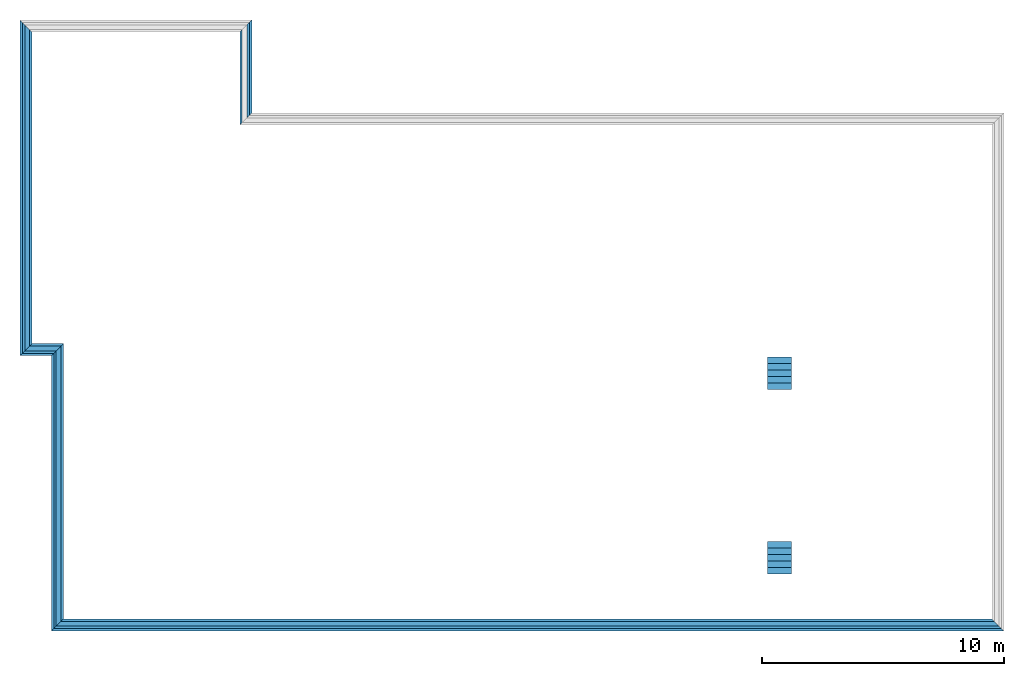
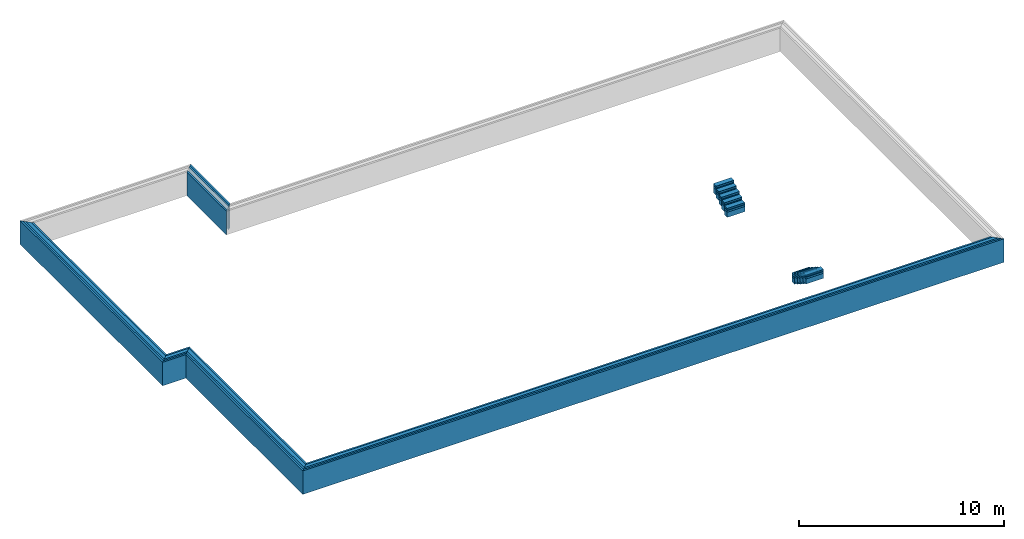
# One storey, part 1 of 2: 69 building element parts, 15 elements without a shape of their own.
"""IFC2X3 building model written with IfcOpenShell, lengths in millimetres."""

from ifc_helpers import new_model, entity, si_unit, converted_unit, derived_unit, money_unit, direction, frame, origin_with_axes, place, context, subcontext, project, spatial, polyline, outline, extrude, material, type_object, element, aggregate, save


model = new_model("IFC2X3")

# Units and contexts
model_context = context("Model", 3, precision=0.01, world=origin_with_axes(), true_north=direction((0.0, 1.0)))
body_context = subcontext(model_context, "Body", "Model", "MODEL_VIEW")
ifc_project = project(units=[si_unit("LENGTHUNIT", "METRE", prefix="MILLI"), si_unit("AREAUNIT", "SQUARE_METRE"), si_unit("VOLUMEUNIT", "CUBIC_METRE"), converted_unit("PLANEANGLEUNIT", "DEGREE", entity("IfcPlaneAngleMeasure", 0.0174532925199), si_unit("PLANEANGLEUNIT", "RADIAN"), dimensions=[0, 0, 0, 0, 0, 0, 0]), si_unit("SOLIDANGLEUNIT", "STERADIAN"), money_unit("EUR"), converted_unit("TIMEUNIT", "Year", entity("IfcTimeMeasure", 31556926.0), si_unit("TIMEUNIT", "SECOND"), dimensions=[0, 0, 1, 0, 0, 0, 0]), si_unit("MASSUNIT", "GRAM", prefix="KILO"), si_unit("THERMODYNAMICTEMPERATUREUNIT", "DEGREE_CELSIUS"), si_unit("LUMINOUSINTENSITYUNIT", "LUMEN"), si_unit("ENERGYUNIT", "JOULE", prefix="MEGA"), derived_unit("THERMALCONDUCTANCEUNIT", [(si_unit("POWERUNIT", "WATT"), 1), (si_unit("LENGTHUNIT", "METRE"), -1), (si_unit("THERMODYNAMICTEMPERATUREUNIT", "KELVIN"), -1)]), derived_unit("SPECIFICHEATCAPACITYUNIT", [(si_unit("ENERGYUNIT", "JOULE"), 1), (si_unit("MASSUNIT", "GRAM", prefix="KILO"), -1), (si_unit("THERMODYNAMICTEMPERATUREUNIT", "KELVIN"), -1)]), derived_unit("MASSDENSITYUNIT", [(si_unit("MASSUNIT", "GRAM", prefix="KILO"), 1), (si_unit("VOLUMEUNIT", "CUBIC_METRE"), -1)])], contexts=[model_context])

# Site, building, storey
site_placement = place(None, origin_with_axes())
site = spatial("IfcSite", under=ifc_project, at=site_placement, Name="KIRDE 14, ELVA", CompositionType="ELEMENT")
building_placement = place(site_placement, origin_with_axes())
building = spatial("IfcBuilding", under=site, at=building_placement, Name="PPA ja Päästeameti ühishoone", CompositionType="ELEMENT")
storey_placement = place(building_placement, frame((0.0, 0.0, -1700.0), z_axis=(0.0, 0.0, 1.0), x_axis=(1.0, 0.0, 0.0)))
storey = spatial("IfcBuildingStorey", under=building, at=storey_placement, Name="Vundament", CompositionType="ELEMENT", Elevation=-1700.0)

# Slab, building element parts
slab_type = type_object("IfcSlabType", Name="P-01 PORAND PINNASEL 535", PredefinedType="BASESLAB")
slab_1_placement = place(storey_placement, frame((30600.172355, 3349.999896, 866.666666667), z_axis=(0.0, 0.0, 1.0), x_axis=(1.0, 0.0, 0.0)))
slab_1 = element("IfcSlab", 1, at=slab_1_placement, inside=storey, type_object=slab_type, Name="PP-02", PredefinedType="BASESLAB")
ifc_material_1 = material(Name="Vahtpolüstüreen (4)")
building_element_part_1_placement = place(slab_1_placement, origin_with_axes())
building_element_part_1 = element("IfcBuildingElementPart", 2, at=building_element_part_1_placement, material=ifc_material_1, Name="Vahtpolüstüreen (4)", context=body_context, shape_type="SweptSolid", body=[
    extrude(outline(polyline([(0.0, 0.0), (0.0, -270.0), (1000.0, -270.0), (1000.0, 0.0), (0.0, 0.0)])), frame((0.0, 0.0, -535.0), z_axis=(0.0, 0.0, 1.0), x_axis=(1.0, 0.0, 0.0)), (0.0, 0.0, 1.0), 300.0),
])
ifc_material_2 = material(Name="Concrete - Cast-in-Place Concrete - C12/15")
building_element_part_2_placement = place(slab_1_placement, origin_with_axes())
building_element_part_2 = element("IfcBuildingElementPart", 3, at=building_element_part_2_placement, material=ifc_material_2, Name="Concrete - Cast-in-Place Concrete - C12/15", context=body_context, shape_type="SweptSolid", body=[
    extrude(outline(polyline([(0.0, 0.0), (0.0, -270.0), (1000.0, -270.0), (1000.0, 0.0), (0.0, 0.0)])), frame((0.0, 0.0, -235.0), z_axis=(0.0, 0.0, 1.0), x_axis=(1.0, 0.0, 0.0)), (0.0, 0.0, 1.0), 100.0),
])
ifc_material_3 = material(Name="Mineraalvill")
building_element_part_3_placement = place(slab_1_placement, origin_with_axes())
building_element_part_3 = element("IfcBuildingElementPart", 4, at=building_element_part_3_placement, material=ifc_material_3, Name="Mineraalvill", context=body_context, shape_type="SweptSolid", body=[
    extrude(outline(polyline([(0.0, 0.0), (0.0, -270.0), (1000.0, -270.0), (1000.0, 0.0), (0.0, 0.0)])), frame((0.0, 0.0, -135.0), z_axis=(0.0, 0.0, 1.0), x_axis=(1.0, 0.0, 0.0)), (0.0, 0.0, 1.0), 30.0),
])
ifc_material_4 = material(Name="Concrete, Cast In Situ")
building_element_part_4_placement = place(slab_1_placement, origin_with_axes())
building_element_part_4 = element("IfcBuildingElementPart", 5, at=building_element_part_4_placement, material=ifc_material_4, Name="Concrete, Cast In Situ", context=body_context, shape_type="SweptSolid", body=[
    extrude(outline(polyline([(0.0, 0.0), (0.0, -270.0), (1000.0, -270.0), (1000.0, 0.0), (0.0, 0.0)])), frame((0.0, 0.0, -105.0), z_axis=(0.0, 0.0, 1.0), x_axis=(1.0, 0.0, 0.0)), (0.0, 0.0, 1.0), 90.0),
])
ifc_material_5 = material(Name="Timber - Floor")
building_element_part_5_placement = place(slab_1_placement, origin_with_axes())
building_element_part_5 = element("IfcBuildingElementPart", 6, at=building_element_part_5_placement, material=ifc_material_5, Name="Timber - Floor", context=body_context, shape_type="SweptSolid", body=[
    extrude(outline(polyline([(0.0, 0.0), (0.0, -270.0), (1000.0, -270.0), (1000.0, 0.0), (0.0, 0.0)])), frame((0.0, 0.0, -15.0), z_axis=(0.0, 0.0, 1.0), x_axis=(1.0, 0.0, 0.0)), (0.0, 0.0, 1.0), 15.0),
])
aggregate(slab_1, [building_element_part_1, building_element_part_2, building_element_part_3, building_element_part_4, building_element_part_5])

slab_2_placement = place(storey_placement, frame((30600.172355, 9919.999896, 1033.33333333), z_axis=(0.0, 0.0, 1.0), x_axis=(1.0, 0.0, 0.0)))
slab_2 = element("IfcSlab", 7, at=slab_2_placement, inside=storey, type_object=slab_type, Name="PP-02", PredefinedType="BASESLAB")
building_element_part_6_placement = place(slab_2_placement, origin_with_axes())
building_element_part_6 = element("IfcBuildingElementPart", 8, at=building_element_part_6_placement, material=ifc_material_1, Name="Vahtpolüstüreen (4)", context=body_context, shape_type="SweptSolid", body=[
    extrude(outline(polyline([(0.0, 0.0), (1000.0, 0.0), (1000.0, 270.0), (0.0, 270.0), (0.0, 0.0)])), frame((0.0, 0.0, -535.0), z_axis=(0.0, 0.0, 1.0), x_axis=(1.0, 0.0, 0.0)), (0.0, 0.0, 1.0), 300.0),
])
building_element_part_7_placement = place(slab_2_placement, origin_with_axes())
building_element_part_7 = element("IfcBuildingElementPart", 9, at=building_element_part_7_placement, material=ifc_material_2, Name="Concrete - Cast-in-Place Concrete - C12/15", context=body_context, shape_type="SweptSolid", body=[
    extrude(outline(polyline([(0.0, 0.0), (1000.0, 0.0), (1000.0, 270.0), (0.0, 270.0), (0.0, 0.0)])), frame((0.0, 0.0, -235.0), z_axis=(0.0, 0.0, 1.0), x_axis=(1.0, 0.0, 0.0)), (0.0, 0.0, 1.0), 100.0),
])
building_element_part_8_placement = place(slab_2_placement, origin_with_axes())
building_element_part_8 = element("IfcBuildingElementPart", 10, at=building_element_part_8_placement, material=ifc_material_3, Name="Mineraalvill", context=body_context, shape_type="SweptSolid", body=[
    extrude(outline(polyline([(0.0, 0.0), (1000.0, 0.0), (1000.0, 270.0), (0.0, 270.0), (0.0, 0.0)])), frame((0.0, 0.0, -135.0), z_axis=(0.0, 0.0, 1.0), x_axis=(1.0, 0.0, 0.0)), (0.0, 0.0, 1.0), 30.0),
])
building_element_part_9_placement = place(slab_2_placement, origin_with_axes())
building_element_part_9 = element("IfcBuildingElementPart", 11, at=building_element_part_9_placement, material=ifc_material_4, Name="Concrete, Cast In Situ", context=body_context, shape_type="SweptSolid", body=[
    extrude(outline(polyline([(0.0, 0.0), (1000.0, 0.0), (1000.0, 270.0), (0.0, 270.0), (0.0, 0.0)])), frame((0.0, 0.0, -105.0), z_axis=(0.0, 0.0, 1.0), x_axis=(1.0, 0.0, 0.0)), (0.0, 0.0, 1.0), 90.0),
])
building_element_part_10_placement = place(slab_2_placement, origin_with_axes())
building_element_part_10 = element("IfcBuildingElementPart", 12, at=building_element_part_10_placement, material=ifc_material_5, Name="Timber - Floor", context=body_context, shape_type="SweptSolid", body=[
    extrude(outline(polyline([(0.0, 0.0), (1000.0, 0.0), (1000.0, 270.0), (0.0, 270.0), (0.0, 0.0)])), frame((0.0, 0.0, -15.0), z_axis=(0.0, 0.0, 1.0), x_axis=(1.0, 0.0, 0.0)), (0.0, 0.0, 1.0), 15.0),
])
aggregate(slab_2, [building_element_part_6, building_element_part_7, building_element_part_8, building_element_part_9, building_element_part_10])

# Wall, building element parts
wall_type = type_object("IfcWallType", Name="VS- SOKKEL 500", PredefinedType="NOTDEFINED")
wall_1_placement = place(storey_placement, frame((8750.00012098, 24449.8167313, 300.0), z_axis=(0.0, 0.0, 1.0), x_axis=(0.0, -1.0, 0.0)))
wall_1 = element("IfcWall", 13, at=wall_1_placement, inside=storey, type_object=wall_type, Name="VS-SOKKEL")
building_element_part_11_placement = place(wall_1_placement, origin_with_axes())
building_element_part_11 = element("IfcBuildingElementPart", 14, at=building_element_part_11_placement, material=ifc_material_1, Name="Vahtpolüstüreen (4)", context=body_context, shape_type="SweptSolid", body=[
    extrude(outline(polyline([(-400.0, 400.0), (3450.22510681, 400.0), (3350.22510681, 500.0), (-500.0, 500.0), (-400.0, 400.0)])), origin_with_axes(), (0.0, 0.0, 1.0), 1400.0),
])
building_element_part_12_placement = place(wall_1_placement, origin_with_axes())
building_element_part_12 = element("IfcBuildingElementPart", 15, at=building_element_part_12_placement, material=ifc_material_1, Name="Vahtpolüstüreen (4)", context=body_context, shape_type="SweptSolid", body=[
    extrude(outline(polyline([(-300.0, 300.0), (3550.22510681, 300.0), (3450.22510681, 400.0), (-400.0, 400.0), (-300.0, 300.0)])), origin_with_axes(), (0.0, 0.0, 1.0), 1400.0),
])
building_element_part_13_placement = place(wall_1_placement, origin_with_axes())
building_element_part_13 = element("IfcBuildingElementPart", 16, at=building_element_part_13_placement, material=ifc_material_1, Name="Vahtpolüstüreen (4)", context=body_context, shape_type="SweptSolid", body=[
    extrude(outline(polyline([(0.0, 0.0), (3850.22510681, 0.0), (3750.22510681, 100.0), (-100.0, 100.0), (0.0, 0.0)])), origin_with_axes(), (0.0, 0.0, 1.0), 1400.0),
])
aggregate(wall_1, [building_element_part_11, building_element_part_12, building_element_part_13])

wall_2_placement = place(storey_placement, frame((1450.00014324, 150.0, 300.0), z_axis=(0.0, 0.0, 1.0), x_axis=(0.0, 1.0, 0.0)))
wall_2 = element("IfcWall", 17, at=wall_2_placement, inside=storey, type_object=wall_type, Name="VS-SOKKEL")
building_element_part_14_placement = place(wall_2_placement, origin_with_axes())
building_element_part_14 = element("IfcBuildingElementPart", 18, at=building_element_part_14_placement, material=ifc_material_1, Name="Vahtpolüstüreen (4)", context=body_context, shape_type="SweptSolid", body=[
    extrude(outline(polyline([(-400.0, 400.0), (11000.396839, 400.0), (10900.396839, 500.0), (-500.0, 500.0), (-400.0, 400.0)])), origin_with_axes(), (0.0, 0.0, 1.0), 1400.0),
])
building_element_part_15_placement = place(wall_2_placement, origin_with_axes())
building_element_part_15 = element("IfcBuildingElementPart", 19, at=building_element_part_15_placement, material=ifc_material_1, Name="Vahtpolüstüreen (4)", context=body_context, shape_type="SweptSolid", body=[
    extrude(outline(polyline([(-300.0, 300.0), (11100.396839, 300.0), (11000.396839, 400.0), (-400.0, 400.0), (-300.0, 300.0)])), origin_with_axes(), (0.0, 0.0, 1.0), 1400.0),
])
building_element_part_16_placement = place(wall_2_placement, origin_with_axes())
building_element_part_16 = element("IfcBuildingElementPart", 20, at=building_element_part_16_placement, material=ifc_material_4, Name="Concrete, Cast In Situ", context=body_context, shape_type="SweptSolid", body=[
    extrude(outline(polyline([(-100.0, 100.0), (11300.396839, 100.0), (11100.396839, 300.0), (-300.0, 300.0), (-100.0, 100.0)])), origin_with_axes(), (0.0, 0.0, 1.0), 1400.0),
])
building_element_part_17_placement = place(wall_2_placement, origin_with_axes())
building_element_part_17 = element("IfcBuildingElementPart", 21, at=building_element_part_17_placement, material=ifc_material_1, Name="Vahtpolüstüreen (4)", context=body_context, shape_type="SweptSolid", body=[
    extrude(outline(polyline([(0.0, 0.0), (11400.396839, 0.0), (11300.396839, 100.0), (-100.0, 100.0), (0.0, 0.0)])), origin_with_axes(), (0.0, 0.0, 1.0), 1400.0),
])
aggregate(wall_2, [building_element_part_14, building_element_part_15, building_element_part_16, building_element_part_17])

wall_3_placement = place(storey_placement, frame((39894.7048801, 150.0, 300.0), z_axis=(0.0, 0.0, 1.0), x_axis=(-1.0, 0.0, 0.0)))
wall_3 = element("IfcWall", 22, at=wall_3_placement, inside=storey, type_object=wall_type, Name="VS-SOKKEL")
building_element_part_18_placement = place(wall_3_placement, origin_with_axes())
building_element_part_18 = element("IfcBuildingElementPart", 23, at=building_element_part_18_placement, material=ifc_material_1, Name="Vahtpolüstüreen (4)", context=body_context, shape_type="SweptSolid", body=[
    extrude(outline(polyline([(-400.0, 400.0), (38844.7047369, 400.0), (38944.7047369, 500.0), (-500.0, 500.0), (-400.0, 400.0)])), origin_with_axes(), (0.0, 0.0, 1.0), 1400.0),
])
building_element_part_19_placement = place(wall_3_placement, origin_with_axes())
building_element_part_19 = element("IfcBuildingElementPart", 24, at=building_element_part_19_placement, material=ifc_material_1, Name="Vahtpolüstüreen (4)", context=body_context, shape_type="SweptSolid", body=[
    extrude(outline(polyline([(-300.0, 300.0), (38744.7047369, 300.0), (38844.7047369, 400.0), (-400.0, 400.0), (-300.0, 300.0)])), origin_with_axes(), (0.0, 0.0, 1.0), 1400.0),
])
building_element_part_20_placement = place(wall_3_placement, origin_with_axes())
building_element_part_20 = element("IfcBuildingElementPart", 25, at=building_element_part_20_placement, material=ifc_material_4, Name="Concrete, Cast In Situ", context=body_context, shape_type="SweptSolid", body=[
    extrude(outline(polyline([(-100.0, 100.0), (38544.7047369, 100.0), (38744.7047369, 300.0), (-300.0, 300.0), (-100.0, 100.0)])), origin_with_axes(), (0.0, 0.0, 1.0), 1400.0),
])
building_element_part_21_placement = place(wall_3_placement, origin_with_axes())
building_element_part_21 = element("IfcBuildingElementPart", 26, at=building_element_part_21_placement, material=ifc_material_1, Name="Vahtpolüstüreen (4)", context=body_context, shape_type="SweptSolid", body=[
    extrude(outline(polyline([(0.0, 0.0), (38444.7047369, 0.0), (38544.7047369, 100.0), (-100.0, 100.0), (0.0, 0.0)])), origin_with_axes(), (0.0, 0.0, 1.0), 1400.0),
])
aggregate(wall_3, [building_element_part_18, building_element_part_19, building_element_part_20, building_element_part_21])

wall_4_placement = place(storey_placement, frame((150.0, 11550.396839, 300.0), z_axis=(0.0, 0.0, 1.0), x_axis=(0.0, 1.0, 0.0)))
wall_4 = element("IfcWall", 27, at=wall_4_placement, inside=storey, type_object=wall_type, Name="VS-SOKKEL")
building_element_part_22_placement = place(wall_4_placement, origin_with_axes())
building_element_part_22 = element("IfcBuildingElementPart", 28, at=building_element_part_22_placement, material=ifc_material_1, Name="Vahtpolüstüreen (4)", context=body_context, shape_type="SweptSolid", body=[
    extrude(outline(polyline([(-400.0, 400.0), (13299.4198923, 400.0), (13399.4198923, 500.0), (-500.0, 500.0), (-400.0, 400.0)])), origin_with_axes(), (0.0, 0.0, 1.0), 1400.0),
])
building_element_part_23_placement = place(wall_4_placement, origin_with_axes())
building_element_part_23 = element("IfcBuildingElementPart", 29, at=building_element_part_23_placement, material=ifc_material_1, Name="Vahtpolüstüreen (4)", context=body_context, shape_type="SweptSolid", body=[
    extrude(outline(polyline([(-300.0, 300.0), (13199.4198923, 300.0), (13299.4198923, 400.0), (-400.0, 400.0), (-300.0, 300.0)])), origin_with_axes(), (0.0, 0.0, 1.0), 1400.0),
])
building_element_part_24_placement = place(wall_4_placement, origin_with_axes())
building_element_part_24 = element("IfcBuildingElementPart", 30, at=building_element_part_24_placement, material=ifc_material_4, Name="Concrete, Cast In Situ", context=body_context, shape_type="SweptSolid", body=[
    extrude(outline(polyline([(-100.0, 100.0), (12999.4198923, 100.0), (13199.4198923, 300.0), (-300.0, 300.0), (-100.0, 100.0)])), origin_with_axes(), (0.0, 0.0, 1.0), 1400.0),
])
building_element_part_25_placement = place(wall_4_placement, origin_with_axes())
building_element_part_25 = element("IfcBuildingElementPart", 31, at=building_element_part_25_placement, material=ifc_material_1, Name="Vahtpolüstüreen (4)", context=body_context, shape_type="SweptSolid", body=[
    extrude(outline(polyline([(0.0, 0.0), (12899.4198923, 0.0), (12999.4198923, 100.0), (-100.0, 100.0), (0.0, 0.0)])), origin_with_axes(), (0.0, 0.0, 1.0), 1400.0),
])
aggregate(wall_4, [building_element_part_22, building_element_part_23, building_element_part_24, building_element_part_25])

wall_5_placement = place(storey_placement, frame((1450.00014324, 11550.396839, 300.0), z_axis=(0.0, 0.0, 1.0), x_axis=(-1.0, 0.0, 0.0)))
wall_5 = element("IfcWall", 32, at=wall_5_placement, inside=storey, type_object=wall_type, Name="VS-SOKKEL")
building_element_part_26_placement = place(wall_5_placement, origin_with_axes())
building_element_part_26 = element("IfcBuildingElementPart", 33, at=building_element_part_26_placement, material=ifc_material_1, Name="Vahtpolüstüreen (4)", context=body_context, shape_type="SweptSolid", body=[
    extrude(outline(polyline([(400.0, 400.0), (1700.00014324, 400.0), (1800.00014324, 500.0), (500.0, 500.0), (400.0, 400.0)])), origin_with_axes(), (0.0, 0.0, 1.0), 1400.0),
])
building_element_part_27_placement = place(wall_5_placement, origin_with_axes())
building_element_part_27 = element("IfcBuildingElementPart", 34, at=building_element_part_27_placement, material=ifc_material_1, Name="Vahtpolüstüreen (4)", context=body_context, shape_type="SweptSolid", body=[
    extrude(outline(polyline([(300.0, 300.0), (1600.00014324, 300.0), (1700.00014324, 400.0), (400.0, 400.0), (300.0, 300.0)])), origin_with_axes(), (0.0, 0.0, 1.0), 1400.0),
])
building_element_part_28_placement = place(wall_5_placement, origin_with_axes())
building_element_part_28 = element("IfcBuildingElementPart", 35, at=building_element_part_28_placement, material=ifc_material_4, Name="Concrete, Cast In Situ", context=body_context, shape_type="SweptSolid", body=[
    extrude(outline(polyline([(100.0, 100.0), (1400.00014324, 100.0), (1600.00014324, 300.0), (300.0, 300.0), (100.0, 100.0)])), origin_with_axes(), (0.0, 0.0, 1.0), 1400.0),
])
building_element_part_29_placement = place(wall_5_placement, origin_with_axes())
building_element_part_29 = element("IfcBuildingElementPart", 36, at=building_element_part_29_placement, material=ifc_material_1, Name="Vahtpolüstüreen (4)", context=body_context, shape_type="SweptSolid", body=[
    extrude(outline(polyline([(0.0, 0.0), (1300.00014324, 0.0), (1400.00014324, 100.0), (100.0, 100.0), (0.0, 0.0)])), origin_with_axes(), (0.0, 0.0, 1.0), 1400.0),
])
aggregate(wall_5, [building_element_part_26, building_element_part_27, building_element_part_28, building_element_part_29])

# Slab, building element parts
slab_3_placement = place(storey_placement, frame((30600.172355, 2809.999896, 1200.0), z_axis=(0.0, 0.0, 1.0), x_axis=(1.0, 0.0, 0.0)))
slab_3 = element("IfcSlab", 37, at=slab_3_placement, inside=storey, type_object=slab_type, Name="PP-02", PredefinedType="BASESLAB")
building_element_part_30_placement = place(slab_3_placement, origin_with_axes())
building_element_part_30 = element("IfcBuildingElementPart", 38, at=building_element_part_30_placement, material=ifc_material_1, Name="Vahtpolüstüreen (4)", context=body_context, shape_type="SweptSolid", body=[
    extrude(outline(polyline([(0.0, 0.0), (0.0, -270.0), (1000.0, -270.0), (1000.0, 0.0), (0.0, 0.0)])), frame((0.0, 0.0, -535.0), z_axis=(0.0, 0.0, 1.0), x_axis=(1.0, 0.0, 0.0)), (0.0, 0.0, 1.0), 300.0),
])
building_element_part_31_placement = place(slab_3_placement, origin_with_axes())
building_element_part_31 = element("IfcBuildingElementPart", 39, at=building_element_part_31_placement, material=ifc_material_2, Name="Concrete - Cast-in-Place Concrete - C12/15", context=body_context, shape_type="SweptSolid", body=[
    extrude(outline(polyline([(0.0, 0.0), (0.0, -270.0), (1000.0, -270.0), (1000.0, 0.0), (0.0, 0.0)])), frame((0.0, 0.0, -235.0), z_axis=(0.0, 0.0, 1.0), x_axis=(1.0, 0.0, 0.0)), (0.0, 0.0, 1.0), 100.0),
])
building_element_part_32_placement = place(slab_3_placement, origin_with_axes())
building_element_part_32 = element("IfcBuildingElementPart", 40, at=building_element_part_32_placement, material=ifc_material_3, Name="Mineraalvill", context=body_context, shape_type="SweptSolid", body=[
    extrude(outline(polyline([(0.0, 0.0), (0.0, -270.0), (1000.0, -270.0), (1000.0, 0.0), (0.0, 0.0)])), frame((0.0, 0.0, -135.0), z_axis=(0.0, 0.0, 1.0), x_axis=(1.0, 0.0, 0.0)), (0.0, 0.0, 1.0), 30.0),
])
building_element_part_33_placement = place(slab_3_placement, origin_with_axes())
building_element_part_33 = element("IfcBuildingElementPart", 41, at=building_element_part_33_placement, material=ifc_material_4, Name="Concrete, Cast In Situ", context=body_context, shape_type="SweptSolid", body=[
    extrude(outline(polyline([(0.0, 0.0), (0.0, -270.0), (1000.0, -270.0), (1000.0, 0.0), (0.0, 0.0)])), frame((0.0, 0.0, -105.0), z_axis=(0.0, 0.0, 1.0), x_axis=(1.0, 0.0, 0.0)), (0.0, 0.0, 1.0), 90.0),
])
building_element_part_34_placement = place(slab_3_placement, origin_with_axes())
building_element_part_34 = element("IfcBuildingElementPart", 42, at=building_element_part_34_placement, material=ifc_material_5, Name="Timber - Floor", context=body_context, shape_type="SweptSolid", body=[
    extrude(outline(polyline([(0.0, 0.0), (0.0, -270.0), (1000.0, -270.0), (1000.0, 0.0), (0.0, 0.0)])), frame((0.0, 0.0, -15.0), z_axis=(0.0, 0.0, 1.0), x_axis=(1.0, 0.0, 0.0)), (0.0, 0.0, 1.0), 15.0),
])
aggregate(slab_3, [building_element_part_30, building_element_part_31, building_element_part_32, building_element_part_33, building_element_part_34])

slab_4_placement = place(storey_placement, frame((30600.172355, 10459.999896, 1366.66666667), z_axis=(0.0, 0.0, 1.0), x_axis=(1.0, 0.0, 0.0)))
slab_4 = element("IfcSlab", 43, at=slab_4_placement, inside=storey, type_object=slab_type, Name="PP-02", PredefinedType="BASESLAB")
building_element_part_35_placement = place(slab_4_placement, origin_with_axes())
building_element_part_35 = element("IfcBuildingElementPart", 44, at=building_element_part_35_placement, material=ifc_material_1, Name="Vahtpolüstüreen (4)", context=body_context, shape_type="SweptSolid", body=[
    extrude(outline(polyline([(0.0, 0.0), (1000.0, 0.0), (1000.0, 270.0), (0.0, 270.0), (0.0, 0.0)])), frame((0.0, 0.0, -535.0), z_axis=(0.0, 0.0, 1.0), x_axis=(1.0, 0.0, 0.0)), (0.0, 0.0, 1.0), 300.0),
])
building_element_part_36_placement = place(slab_4_placement, origin_with_axes())
building_element_part_36 = element("IfcBuildingElementPart", 45, at=building_element_part_36_placement, material=ifc_material_2, Name="Concrete - Cast-in-Place Concrete - C12/15", context=body_context, shape_type="SweptSolid", body=[
    extrude(outline(polyline([(0.0, 0.0), (1000.0, 0.0), (1000.0, 270.0), (0.0, 270.0), (0.0, 0.0)])), frame((0.0, 0.0, -235.0), z_axis=(0.0, 0.0, 1.0), x_axis=(1.0, 0.0, 0.0)), (0.0, 0.0, 1.0), 100.0),
])
building_element_part_37_placement = place(slab_4_placement, origin_with_axes())
building_element_part_37 = element("IfcBuildingElementPart", 46, at=building_element_part_37_placement, material=ifc_material_3, Name="Mineraalvill", context=body_context, shape_type="SweptSolid", body=[
    extrude(outline(polyline([(0.0, 0.0), (1000.0, 0.0), (1000.0, 270.0), (0.0, 270.0), (0.0, 0.0)])), frame((0.0, 0.0, -135.0), z_axis=(0.0, 0.0, 1.0), x_axis=(1.0, 0.0, 0.0)), (0.0, 0.0, 1.0), 30.0),
])
building_element_part_38_placement = place(slab_4_placement, origin_with_axes())
building_element_part_38 = element("IfcBuildingElementPart", 47, at=building_element_part_38_placement, material=ifc_material_4, Name="Concrete, Cast In Situ", context=body_context, shape_type="SweptSolid", body=[
    extrude(outline(polyline([(0.0, 0.0), (1000.0, 0.0), (1000.0, 270.0), (0.0, 270.0), (0.0, 0.0)])), frame((0.0, 0.0, -105.0), z_axis=(0.0, 0.0, 1.0), x_axis=(1.0, 0.0, 0.0)), (0.0, 0.0, 1.0), 90.0),
])
building_element_part_39_placement = place(slab_4_placement, origin_with_axes())
building_element_part_39 = element("IfcBuildingElementPart", 48, at=building_element_part_39_placement, material=ifc_material_5, Name="Timber - Floor", context=body_context, shape_type="SweptSolid", body=[
    extrude(outline(polyline([(0.0, 0.0), (1000.0, 0.0), (1000.0, 270.0), (0.0, 270.0), (0.0, 0.0)])), frame((0.0, 0.0, -15.0), z_axis=(0.0, 0.0, 1.0), x_axis=(1.0, 0.0, 0.0)), (0.0, 0.0, 1.0), 15.0),
])
aggregate(slab_4, [building_element_part_35, building_element_part_36, building_element_part_37, building_element_part_38, building_element_part_39])

slab_5_placement = place(storey_placement, frame((30600.172355, 10189.999896, 1200.0), z_axis=(0.0, 0.0, 1.0), x_axis=(1.0, 0.0, 0.0)))
slab_5 = element("IfcSlab", 49, at=slab_5_placement, inside=storey, type_object=slab_type, Name="PP-02", PredefinedType="BASESLAB")
building_element_part_40_placement = place(slab_5_placement, origin_with_axes())
building_element_part_40 = element("IfcBuildingElementPart", 50, at=building_element_part_40_placement, material=ifc_material_1, Name="Vahtpolüstüreen (4)", context=body_context, shape_type="SweptSolid", body=[
    extrude(outline(polyline([(0.0, 0.0), (1000.0, 0.0), (1000.0, 270.0), (0.0, 270.0), (0.0, 0.0)])), frame((0.0, 0.0, -535.0), z_axis=(0.0, 0.0, 1.0), x_axis=(1.0, 0.0, 0.0)), (0.0, 0.0, 1.0), 300.0),
])
building_element_part_41_placement = place(slab_5_placement, origin_with_axes())
building_element_part_41 = element("IfcBuildingElementPart", 51, at=building_element_part_41_placement, material=ifc_material_2, Name="Concrete - Cast-in-Place Concrete - C12/15", context=body_context, shape_type="SweptSolid", body=[
    extrude(outline(polyline([(0.0, 0.0), (1000.0, 0.0), (1000.0, 270.0), (0.0, 270.0), (0.0, 0.0)])), frame((0.0, 0.0, -235.0), z_axis=(0.0, 0.0, 1.0), x_axis=(1.0, 0.0, 0.0)), (0.0, 0.0, 1.0), 100.0),
])
building_element_part_42_placement = place(slab_5_placement, origin_with_axes())
building_element_part_42 = element("IfcBuildingElementPart", 52, at=building_element_part_42_placement, material=ifc_material_3, Name="Mineraalvill", context=body_context, shape_type="SweptSolid", body=[
    extrude(outline(polyline([(0.0, 0.0), (1000.0, 0.0), (1000.0, 270.0), (0.0, 270.0), (0.0, 0.0)])), frame((0.0, 0.0, -135.0), z_axis=(0.0, 0.0, 1.0), x_axis=(1.0, 0.0, 0.0)), (0.0, 0.0, 1.0), 30.0),
])
building_element_part_43_placement = place(slab_5_placement, origin_with_axes())
building_element_part_43 = element("IfcBuildingElementPart", 53, at=building_element_part_43_placement, material=ifc_material_4, Name="Concrete, Cast In Situ", context=body_context, shape_type="SweptSolid", body=[
    extrude(outline(polyline([(0.0, 0.0), (1000.0, 0.0), (1000.0, 270.0), (0.0, 270.0), (0.0, 0.0)])), frame((0.0, 0.0, -105.0), z_axis=(0.0, 0.0, 1.0), x_axis=(1.0, 0.0, 0.0)), (0.0, 0.0, 1.0), 90.0),
])
building_element_part_44_placement = place(slab_5_placement, origin_with_axes())
building_element_part_44 = element("IfcBuildingElementPart", 54, at=building_element_part_44_placement, material=ifc_material_5, Name="Timber - Floor", context=body_context, shape_type="SweptSolid", body=[
    extrude(outline(polyline([(0.0, 0.0), (1000.0, 0.0), (1000.0, 270.0), (0.0, 270.0), (0.0, 0.0)])), frame((0.0, 0.0, -15.0), z_axis=(0.0, 0.0, 1.0), x_axis=(1.0, 0.0, 0.0)), (0.0, 0.0, 1.0), 15.0),
])
aggregate(slab_5, [building_element_part_40, building_element_part_41, building_element_part_42, building_element_part_43, building_element_part_44])

slab_6_placement = place(storey_placement, frame((30600.172355, 10729.999896, 1533.33333333), z_axis=(0.0, 0.0, 1.0), x_axis=(1.0, 0.0, 0.0)))
slab_6 = element("IfcSlab", 55, at=slab_6_placement, inside=storey, type_object=slab_type, Name="PP-02", PredefinedType="BASESLAB")
building_element_part_45_placement = place(slab_6_placement, origin_with_axes())
building_element_part_45 = element("IfcBuildingElementPart", 56, at=building_element_part_45_placement, material=ifc_material_1, Name="Vahtpolüstüreen (4)", context=body_context, shape_type="SweptSolid", body=[
    extrude(outline(polyline([(0.0, 0.0), (1000.0, 0.0), (1000.0, 270.0), (0.0, 270.0), (0.0, 0.0)])), frame((0.0, 0.0, -535.0), z_axis=(0.0, 0.0, 1.0), x_axis=(1.0, 0.0, 0.0)), (0.0, 0.0, 1.0), 300.0),
])
building_element_part_46_placement = place(slab_6_placement, origin_with_axes())
building_element_part_46 = element("IfcBuildingElementPart", 57, at=building_element_part_46_placement, material=ifc_material_2, Name="Concrete - Cast-in-Place Concrete - C12/15", context=body_context, shape_type="SweptSolid", body=[
    extrude(outline(polyline([(0.0, 0.0), (1000.0, 0.0), (1000.0, 270.0), (0.0, 270.0), (0.0, 0.0)])), frame((0.0, 0.0, -235.0), z_axis=(0.0, 0.0, 1.0), x_axis=(1.0, 0.0, 0.0)), (0.0, 0.0, 1.0), 100.0),
])
building_element_part_47_placement = place(slab_6_placement, origin_with_axes())
building_element_part_47 = element("IfcBuildingElementPart", 58, at=building_element_part_47_placement, material=ifc_material_3, Name="Mineraalvill", context=body_context, shape_type="SweptSolid", body=[
    extrude(outline(polyline([(0.0, 0.0), (1000.0, 0.0), (1000.0, 270.0), (0.0, 270.0), (0.0, 0.0)])), frame((0.0, 0.0, -135.0), z_axis=(0.0, 0.0, 1.0), x_axis=(1.0, 0.0, 0.0)), (0.0, 0.0, 1.0), 30.0),
])
building_element_part_48_placement = place(slab_6_placement, origin_with_axes())
building_element_part_48 = element("IfcBuildingElementPart", 59, at=building_element_part_48_placement, material=ifc_material_4, Name="Concrete, Cast In Situ", context=body_context, shape_type="SweptSolid", body=[
    extrude(outline(polyline([(0.0, 0.0), (1000.0, 0.0), (1000.0, 270.0), (0.0, 270.0), (0.0, 0.0)])), frame((0.0, 0.0, -105.0), z_axis=(0.0, 0.0, 1.0), x_axis=(1.0, 0.0, 0.0)), (0.0, 0.0, 1.0), 90.0),
])
building_element_part_49_placement = place(slab_6_placement, origin_with_axes())
building_element_part_49 = element("IfcBuildingElementPart", 60, at=building_element_part_49_placement, material=ifc_material_5, Name="Timber - Floor", context=body_context, shape_type="SweptSolid", body=[
    extrude(outline(polyline([(0.0, 0.0), (1000.0, 0.0), (1000.0, 270.0), (0.0, 270.0), (0.0, 0.0)])), frame((0.0, 0.0, -15.0), z_axis=(0.0, 0.0, 1.0), x_axis=(1.0, 0.0, 0.0)), (0.0, 0.0, 1.0), 15.0),
])
aggregate(slab_6, [building_element_part_45, building_element_part_46, building_element_part_47, building_element_part_48, building_element_part_49])

slab_7_placement = place(storey_placement, frame((30600.172355, 9649.999896, 866.666666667), z_axis=(0.0, 0.0, 1.0), x_axis=(1.0, 0.0, 0.0)))
slab_7 = element("IfcSlab", 61, at=slab_7_placement, inside=storey, type_object=slab_type, Name="PP-02", PredefinedType="BASESLAB")
building_element_part_50_placement = place(slab_7_placement, origin_with_axes())
building_element_part_50 = element("IfcBuildingElementPart", 62, at=building_element_part_50_placement, material=ifc_material_1, Name="Vahtpolüstüreen (4)", context=body_context, shape_type="SweptSolid", body=[
    extrude(outline(polyline([(0.0, 0.0), (1000.0, 0.0), (1000.0, 270.0), (0.0, 270.0), (0.0, 0.0)])), frame((0.0, 0.0, -535.0), z_axis=(0.0, 0.0, 1.0), x_axis=(1.0, 0.0, 0.0)), (0.0, 0.0, 1.0), 300.0),
])
building_element_part_51_placement = place(slab_7_placement, origin_with_axes())
building_element_part_51 = element("IfcBuildingElementPart", 63, at=building_element_part_51_placement, material=ifc_material_2, Name="Concrete - Cast-in-Place Concrete - C12/15", context=body_context, shape_type="SweptSolid", body=[
    extrude(outline(polyline([(0.0, 0.0), (1000.0, 0.0), (1000.0, 270.0), (0.0, 270.0), (0.0, 0.0)])), frame((0.0, 0.0, -235.0), z_axis=(0.0, 0.0, 1.0), x_axis=(1.0, 0.0, 0.0)), (0.0, 0.0, 1.0), 100.0),
])
building_element_part_52_placement = place(slab_7_placement, origin_with_axes())
building_element_part_52 = element("IfcBuildingElementPart", 64, at=building_element_part_52_placement, material=ifc_material_3, Name="Mineraalvill", context=body_context, shape_type="SweptSolid", body=[
    extrude(outline(polyline([(0.0, 0.0), (1000.0, 0.0), (1000.0, 270.0), (0.0, 270.0), (0.0, 0.0)])), frame((0.0, 0.0, -135.0), z_axis=(0.0, 0.0, 1.0), x_axis=(1.0, 0.0, 0.0)), (0.0, 0.0, 1.0), 30.0),
])
building_element_part_53_placement = place(slab_7_placement, origin_with_axes())
building_element_part_53 = element("IfcBuildingElementPart", 65, at=building_element_part_53_placement, material=ifc_material_4, Name="Concrete, Cast In Situ", context=body_context, shape_type="SweptSolid", body=[
    extrude(outline(polyline([(0.0, 0.0), (1000.0, 0.0), (1000.0, 270.0), (0.0, 270.0), (0.0, 0.0)])), frame((0.0, 0.0, -105.0), z_axis=(0.0, 0.0, 1.0), x_axis=(1.0, 0.0, 0.0)), (0.0, 0.0, 1.0), 90.0),
])
building_element_part_54_placement = place(slab_7_placement, origin_with_axes())
building_element_part_54 = element("IfcBuildingElementPart", 66, at=building_element_part_54_placement, material=ifc_material_5, Name="Timber - Floor", context=body_context, shape_type="SweptSolid", body=[
    extrude(outline(polyline([(0.0, 0.0), (1000.0, 0.0), (1000.0, 270.0), (0.0, 270.0), (0.0, 0.0)])), frame((0.0, 0.0, -15.0), z_axis=(0.0, 0.0, 1.0), x_axis=(1.0, 0.0, 0.0)), (0.0, 0.0, 1.0), 15.0),
])
aggregate(slab_7, [building_element_part_50, building_element_part_51, building_element_part_52, building_element_part_53, building_element_part_54])

slab_8_placement = place(storey_placement, frame((30600.172355, 3079.999896, 1033.33333333), z_axis=(0.0, 0.0, 1.0), x_axis=(1.0, 0.0, 0.0)))
slab_8 = element("IfcSlab", 67, at=slab_8_placement, inside=storey, type_object=slab_type, Name="PP-02", PredefinedType="BASESLAB")
building_element_part_55_placement = place(slab_8_placement, origin_with_axes())
building_element_part_55 = element("IfcBuildingElementPart", 68, at=building_element_part_55_placement, material=ifc_material_1, Name="Vahtpolüstüreen (4)", context=body_context, shape_type="SweptSolid", body=[
    extrude(outline(polyline([(0.0, 0.0), (0.0, -270.0), (1000.0, -270.0), (1000.0, 0.0), (0.0, 0.0)])), frame((0.0, 0.0, -535.0), z_axis=(0.0, 0.0, 1.0), x_axis=(1.0, 0.0, 0.0)), (0.0, 0.0, 1.0), 300.0),
])
building_element_part_56_placement = place(slab_8_placement, origin_with_axes())
building_element_part_56 = element("IfcBuildingElementPart", 69, at=building_element_part_56_placement, material=ifc_material_2, Name="Concrete - Cast-in-Place Concrete - C12/15", context=body_context, shape_type="SweptSolid", body=[
    extrude(outline(polyline([(0.0, 0.0), (0.0, -270.0), (1000.0, -270.0), (1000.0, 0.0), (0.0, 0.0)])), frame((0.0, 0.0, -235.0), z_axis=(0.0, 0.0, 1.0), x_axis=(1.0, 0.0, 0.0)), (0.0, 0.0, 1.0), 100.0),
])
building_element_part_57_placement = place(slab_8_placement, origin_with_axes())
building_element_part_57 = element("IfcBuildingElementPart", 70, at=building_element_part_57_placement, material=ifc_material_3, Name="Mineraalvill", context=body_context, shape_type="SweptSolid", body=[
    extrude(outline(polyline([(0.0, 0.0), (0.0, -270.0), (1000.0, -270.0), (1000.0, 0.0), (0.0, 0.0)])), frame((0.0, 0.0, -135.0), z_axis=(0.0, 0.0, 1.0), x_axis=(1.0, 0.0, 0.0)), (0.0, 0.0, 1.0), 30.0),
])
building_element_part_58_placement = place(slab_8_placement, origin_with_axes())
building_element_part_58 = element("IfcBuildingElementPart", 71, at=building_element_part_58_placement, material=ifc_material_4, Name="Concrete, Cast In Situ", context=body_context, shape_type="SweptSolid", body=[
    extrude(outline(polyline([(0.0, 0.0), (0.0, -270.0), (1000.0, -270.0), (1000.0, 0.0), (0.0, 0.0)])), frame((0.0, 0.0, -105.0), z_axis=(0.0, 0.0, 1.0), x_axis=(1.0, 0.0, 0.0)), (0.0, 0.0, 1.0), 90.0),
])
building_element_part_59_placement = place(slab_8_placement, origin_with_axes())
building_element_part_59 = element("IfcBuildingElementPart", 72, at=building_element_part_59_placement, material=ifc_material_5, Name="Timber - Floor", context=body_context, shape_type="SweptSolid", body=[
    extrude(outline(polyline([(0.0, 0.0), (0.0, -270.0), (1000.0, -270.0), (1000.0, 0.0), (0.0, 0.0)])), frame((0.0, 0.0, -15.0), z_axis=(0.0, 0.0, 1.0), x_axis=(1.0, 0.0, 0.0)), (0.0, 0.0, 1.0), 15.0),
])
aggregate(slab_8, [building_element_part_55, building_element_part_56, building_element_part_57, building_element_part_58, building_element_part_59])

slab_9_placement = place(storey_placement, frame((30600.172355, 2269.999896, 1533.33333333), z_axis=(0.0, 0.0, 1.0), x_axis=(1.0, 0.0, 0.0)))
slab_9 = element("IfcSlab", 73, at=slab_9_placement, inside=storey, type_object=slab_type, Name="PP-02", PredefinedType="BASESLAB")
building_element_part_60_placement = place(slab_9_placement, origin_with_axes())
building_element_part_60 = element("IfcBuildingElementPart", 74, at=building_element_part_60_placement, material=ifc_material_1, Name="Vahtpolüstüreen (4)", context=body_context, shape_type="SweptSolid", body=[
    extrude(outline(polyline([(0.0, 0.0), (0.0, -270.0), (1000.0, -270.0), (1000.0, 0.0), (0.0, 0.0)])), frame((0.0, 0.0, -535.0), z_axis=(0.0, 0.0, 1.0), x_axis=(1.0, 0.0, 0.0)), (0.0, 0.0, 1.0), 300.0),
])
building_element_part_61_placement = place(slab_9_placement, origin_with_axes())
building_element_part_61 = element("IfcBuildingElementPart", 75, at=building_element_part_61_placement, material=ifc_material_2, Name="Concrete - Cast-in-Place Concrete - C12/15", context=body_context, shape_type="SweptSolid", body=[
    extrude(outline(polyline([(0.0, 0.0), (0.0, -270.0), (1000.0, -270.0), (1000.0, 0.0), (0.0, 0.0)])), frame((0.0, 0.0, -235.0), z_axis=(0.0, 0.0, 1.0), x_axis=(1.0, 0.0, 0.0)), (0.0, 0.0, 1.0), 100.0),
])
building_element_part_62_placement = place(slab_9_placement, origin_with_axes())
building_element_part_62 = element("IfcBuildingElementPart", 76, at=building_element_part_62_placement, material=ifc_material_3, Name="Mineraalvill", context=body_context, shape_type="SweptSolid", body=[
    extrude(outline(polyline([(0.0, 0.0), (0.0, -270.0), (1000.0, -270.0), (1000.0, 0.0), (0.0, 0.0)])), frame((0.0, 0.0, -135.0), z_axis=(0.0, 0.0, 1.0), x_axis=(1.0, 0.0, 0.0)), (0.0, 0.0, 1.0), 30.0),
])
building_element_part_63_placement = place(slab_9_placement, origin_with_axes())
building_element_part_63 = element("IfcBuildingElementPart", 77, at=building_element_part_63_placement, material=ifc_material_4, Name="Concrete, Cast In Situ", context=body_context, shape_type="SweptSolid", body=[
    extrude(outline(polyline([(0.0, 0.0), (0.0, -270.0), (1000.0, -270.0), (1000.0, 0.0), (0.0, 0.0)])), frame((0.0, 0.0, -105.0), z_axis=(0.0, 0.0, 1.0), x_axis=(1.0, 0.0, 0.0)), (0.0, 0.0, 1.0), 90.0),
])
building_element_part_64_placement = place(slab_9_placement, origin_with_axes())
building_element_part_64 = element("IfcBuildingElementPart", 78, at=building_element_part_64_placement, material=ifc_material_5, Name="Timber - Floor", context=body_context, shape_type="SweptSolid", body=[
    extrude(outline(polyline([(0.0, 0.0), (0.0, -270.0), (1000.0, -270.0), (1000.0, 0.0), (0.0, 0.0)])), frame((0.0, 0.0, -15.0), z_axis=(0.0, 0.0, 1.0), x_axis=(1.0, 0.0, 0.0)), (0.0, 0.0, 1.0), 15.0),
])
aggregate(slab_9, [building_element_part_60, building_element_part_61, building_element_part_62, building_element_part_63, building_element_part_64])

slab_10_placement = place(storey_placement, frame((30600.172355, 2539.999896, 1366.66666667), z_axis=(0.0, 0.0, 1.0), x_axis=(1.0, 0.0, 0.0)))
slab_10 = element("IfcSlab", 79, at=slab_10_placement, inside=storey, type_object=slab_type, Name="PP-02", PredefinedType="BASESLAB")
building_element_part_65_placement = place(slab_10_placement, origin_with_axes())
building_element_part_65 = element("IfcBuildingElementPart", 80, at=building_element_part_65_placement, material=ifc_material_1, Name="Vahtpolüstüreen (4)", context=body_context, shape_type="SweptSolid", body=[
    extrude(outline(polyline([(0.0, 0.0), (0.0, -270.0), (1000.0, -270.0), (1000.0, 0.0), (0.0, 0.0)])), frame((0.0, 0.0, -535.0), z_axis=(0.0, 0.0, 1.0), x_axis=(1.0, 0.0, 0.0)), (0.0, 0.0, 1.0), 300.0),
])
building_element_part_66_placement = place(slab_10_placement, origin_with_axes())
building_element_part_66 = element("IfcBuildingElementPart", 81, at=building_element_part_66_placement, material=ifc_material_2, Name="Concrete - Cast-in-Place Concrete - C12/15", context=body_context, shape_type="SweptSolid", body=[
    extrude(outline(polyline([(0.0, 0.0), (0.0, -270.0), (1000.0, -270.0), (1000.0, 0.0), (0.0, 0.0)])), frame((0.0, 0.0, -235.0), z_axis=(0.0, 0.0, 1.0), x_axis=(1.0, 0.0, 0.0)), (0.0, 0.0, 1.0), 100.0),
])
building_element_part_67_placement = place(slab_10_placement, origin_with_axes())
building_element_part_67 = element("IfcBuildingElementPart", 82, at=building_element_part_67_placement, material=ifc_material_3, Name="Mineraalvill", context=body_context, shape_type="SweptSolid", body=[
    extrude(outline(polyline([(0.0, 0.0), (0.0, -270.0), (1000.0, -270.0), (1000.0, 0.0), (0.0, 0.0)])), frame((0.0, 0.0, -135.0), z_axis=(0.0, 0.0, 1.0), x_axis=(1.0, 0.0, 0.0)), (0.0, 0.0, 1.0), 30.0),
])
building_element_part_68_placement = place(slab_10_placement, origin_with_axes())
building_element_part_68 = element("IfcBuildingElementPart", 83, at=building_element_part_68_placement, material=ifc_material_4, Name="Concrete, Cast In Situ", context=body_context, shape_type="SweptSolid", body=[
    extrude(outline(polyline([(0.0, 0.0), (0.0, -270.0), (1000.0, -270.0), (1000.0, 0.0), (0.0, 0.0)])), frame((0.0, 0.0, -105.0), z_axis=(0.0, 0.0, 1.0), x_axis=(1.0, 0.0, 0.0)), (0.0, 0.0, 1.0), 90.0),
])
building_element_part_69_placement = place(slab_10_placement, origin_with_axes())
building_element_part_69 = element("IfcBuildingElementPart", 84, at=building_element_part_69_placement, material=ifc_material_5, Name="Timber - Floor", context=body_context, shape_type="SweptSolid", body=[
    extrude(outline(polyline([(0.0, 0.0), (0.0, -270.0), (1000.0, -270.0), (1000.0, 0.0), (0.0, 0.0)])), frame((0.0, 0.0, -15.0), z_axis=(0.0, 0.0, 1.0), x_axis=(1.0, 0.0, 0.0)), (0.0, 0.0, 1.0), 15.0),
])
aggregate(slab_10, [building_element_part_65, building_element_part_66, building_element_part_67, building_element_part_68, building_element_part_69])

save(model, "model.ifc")
